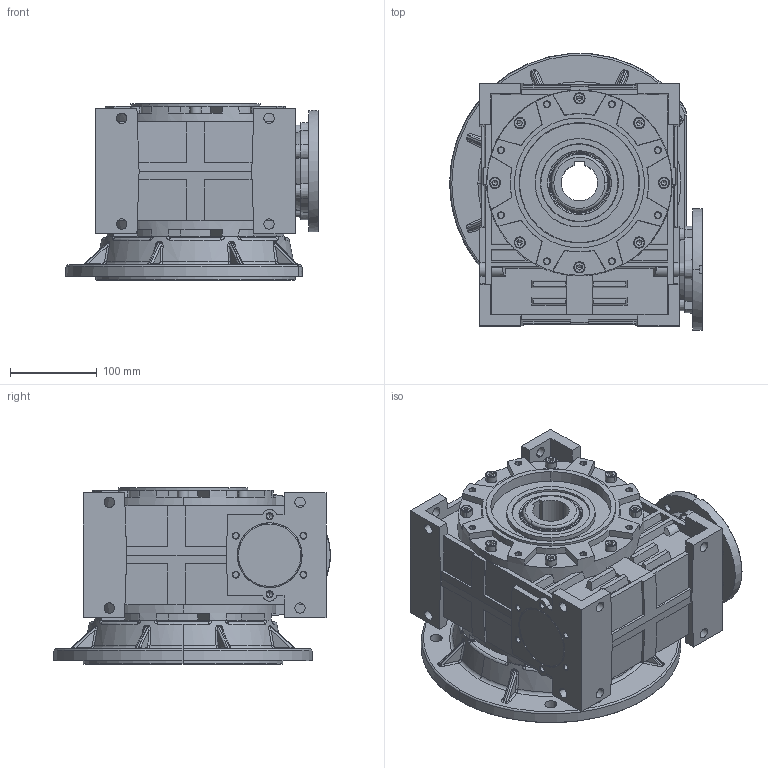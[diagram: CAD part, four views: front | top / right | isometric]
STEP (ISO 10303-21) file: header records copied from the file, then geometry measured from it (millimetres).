
FILE_DESCRIPTION (( 'STEP AP203' ), '1' );
FILE_NAME ('MR-100_140-24-K300_1-3D.STEP', '2023-09-29T07:07:54', ( '' ), ( '' ), 'SwSTEP 2.0', 'SolidWorks 2022', '' );
FILE_SCHEMA (( 'CONFIG_CONTROL_DESIGN' ));
Products named in the file (1): MR-100_140-24-K300_1-3D
Bounding box: 291.87 x 319.67 x 204 mm (x, y, z)
Volume: 8371597.4 mm3; surface area: 607730 mm2
Topology: 1 solids, 33 shells, 2382 faces, 5767 edges, 3492 vertices
Faces by surface type: plane 918, bspline 412, cylinder 410, cone 381, torus 225, sphere 36
Entity records: 87766 total; most frequent: CARTESIAN_POINT 35016, ORIENTED_EDGE 11394, DIRECTION 10588, EDGE_CURVE 5697, AXIS2_PLACEMENT_3D 4207, VERTEX_POINT 3492, EDGE_LOOP 2571, FACE_OUTER_BOUND 2382
